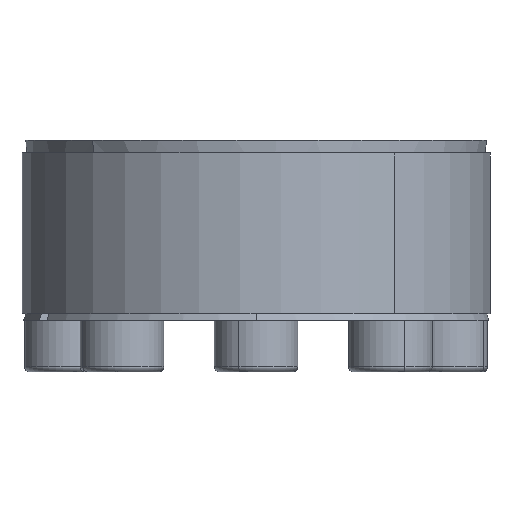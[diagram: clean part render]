
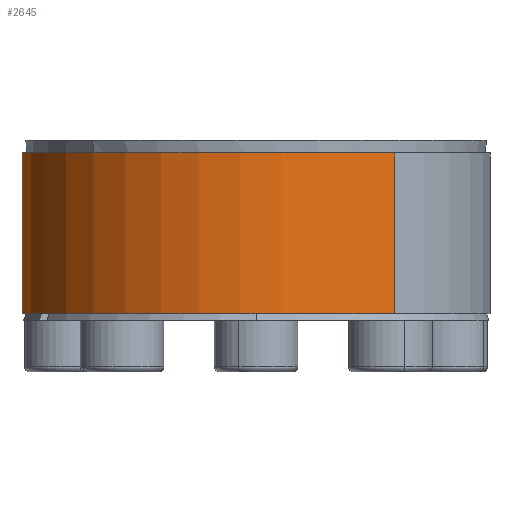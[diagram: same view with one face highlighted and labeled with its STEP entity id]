
A CAD part, left-side view. The second image highlights one B-rep face of the part: STEP entity #2645.
In plain terms, the highlighted cylindrical face has radius 36.485 mm (diameter 72.97 mm), a partial arc.
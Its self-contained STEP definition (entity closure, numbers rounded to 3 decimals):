
#1852 = AXIS2_PLACEMENT_3D ( 'NONE', #2911, #9727, #3876 ) ;
#2089 = CARTESIAN_POINT ( 'NONE',  ( -29.517, -21.445, 26.026 ) ) ;
#2269 = CYLINDRICAL_SURFACE ( 'NONE', #6698, 36.485 ) ;
#2645 = ADVANCED_FACE ( 'NONE', ( #8364 ), #2269, .T. ) ;
#2911 = CARTESIAN_POINT ( 'NONE',  ( 0., 0., 1.026 ) ) ;
#2978 = CARTESIAN_POINT ( 'NONE',  ( 0., 0., 26.026 ) ) ;
#3148 = DIRECTION ( 'NONE',  ( 0.809, 0.588, 0. ) ) ;
#3373 = VECTOR ( 'NONE', #11818, 1000. ) ;
#3567 = CARTESIAN_POINT ( 'NONE',  ( 29.517, 21.445, 26.026 ) ) ;
#3876 = DIRECTION ( 'NONE',  ( -0.809, -0.588, 0. ) ) ;
#3952 = DIRECTION ( 'NONE',  ( -0.809, -0.588, 0. ) ) ;
#4268 = AXIS2_PLACEMENT_3D ( 'NONE', #2978, #9797, #3952 ) ;
#4295 = CIRCLE ( 'NONE', #1852, 36.485 ) ;
#4303 = VERTEX_POINT ( 'NONE', #7486 ) ;
#4355 = CIRCLE ( 'NONE', #4268, 36.485 ) ;
#5046 = CARTESIAN_POINT ( 'NONE',  ( 0., 0., 26.026 ) ) ;
#5239 = ORIENTED_EDGE ( 'NONE', *, *, #8593, .F. ) ;
#5339 = EDGE_CURVE ( 'NONE', #12087, #4303, #6040, .T. ) ;
#5406 = CARTESIAN_POINT ( 'NONE',  ( -29.517, -21.445, 1.026 ) ) ;
#5945 = LINE ( 'NONE', #2089, #3373 ) ;
#6040 = LINE ( 'NONE', #3567, #8620 ) ;
#6698 = AXIS2_PLACEMENT_3D ( 'NONE', #5046, #10898, #3148 ) ;
#7486 = CARTESIAN_POINT ( 'NONE',  ( 29.517, 21.445, 1.026 ) ) ;
#7499 = ORIENTED_EDGE ( 'NONE', *, *, #9669, .F. ) ;
#7562 = ORIENTED_EDGE ( 'NONE', *, *, #5339, .T. ) ;
#8364 = FACE_OUTER_BOUND ( 'NONE', #10674, .T. ) ;
#8593 = EDGE_CURVE ( 'NONE', #12087, #11482, #4355, .T. ) ;
#8618 = ORIENTED_EDGE ( 'NONE', *, *, #12109, .T. ) ;
#8620 = VECTOR ( 'NONE', #9389, 1000. ) ;
#8961 = CARTESIAN_POINT ( 'NONE',  ( -29.517, -21.445, 26.026 ) ) ;
#9389 = DIRECTION ( 'NONE',  ( 0., 0., -1. ) ) ;
#9669 = EDGE_CURVE ( 'NONE', #11482, #10539, #5945, .T. ) ;
#9727 = DIRECTION ( 'NONE',  ( 0., 0., 1. ) ) ;
#9797 = DIRECTION ( 'NONE',  ( 0., 0., 1. ) ) ;
#10535 = CARTESIAN_POINT ( 'NONE',  ( 29.517, 21.445, 26.026 ) ) ;
#10539 = VERTEX_POINT ( 'NONE', #5406 ) ;
#10674 = EDGE_LOOP ( 'NONE', ( #7499, #5239, #7562, #8618 ) ) ;
#10898 = DIRECTION ( 'NONE',  ( 0., 0., -1. ) ) ;
#11482 = VERTEX_POINT ( 'NONE', #8961 ) ;
#11818 = DIRECTION ( 'NONE',  ( 0., 0., -1. ) ) ;
#12087 = VERTEX_POINT ( 'NONE', #10535 ) ;
#12109 = EDGE_CURVE ( 'NONE', #4303, #10539, #4295, .T. ) ;
